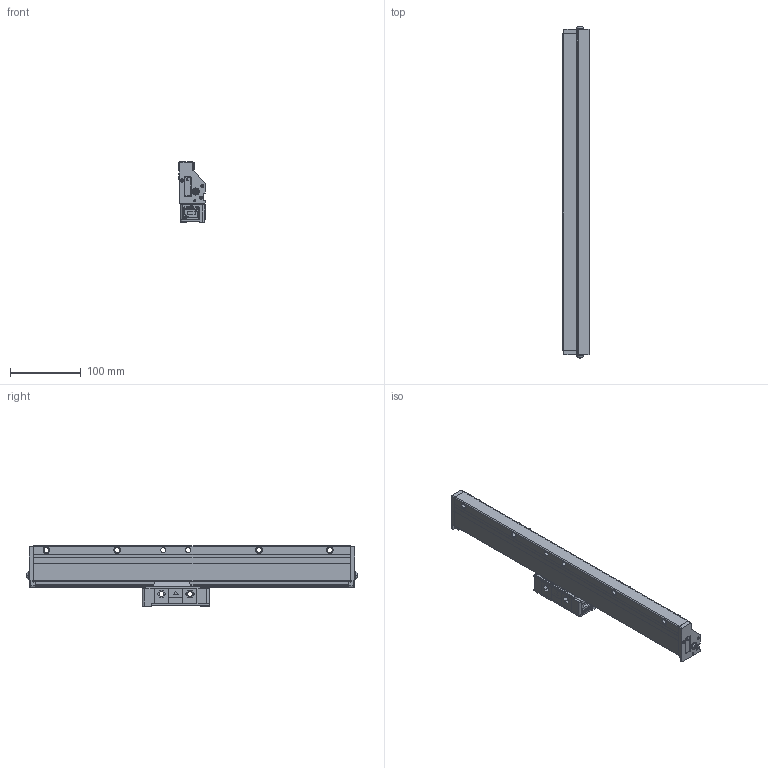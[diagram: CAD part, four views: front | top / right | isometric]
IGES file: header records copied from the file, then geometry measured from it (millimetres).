
Start section: Elysium IGES Interface
Global section: file name: 81HK:\20_商品設計\設計１課\個人\宮澤\郷間さん\AT1153\3D\NEW_ﾌｧｲﾙ\IGES\AT1153-340.igs; native system: Creo Elements/Direct Modeling 18.1B  29-Sep-2012; preprocessor: Creo Element/Direct IGES_3D V2.2; author: Unknown; organization: Unknown; date: 20181012.105606; units: millimetre
Bounding box: 37 x 468.44 x 85 mm (x, y, z)
Volume: 779078.1 mm3; surface area: 119750.6 mm2
Topology: 2 solids, 2 shells, 2552 faces, 6693 edges, 4325 vertices
Faces by surface type: bspline 2552
